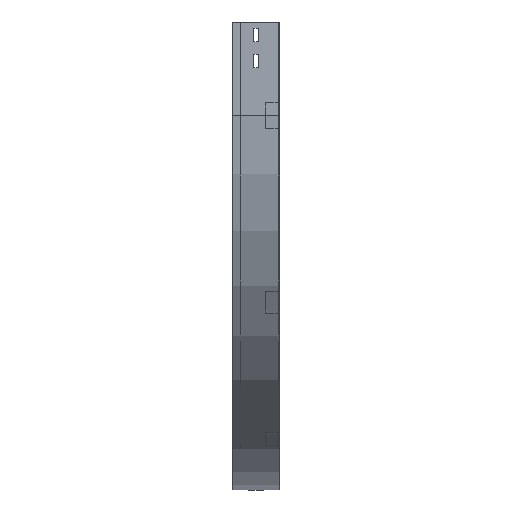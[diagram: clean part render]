
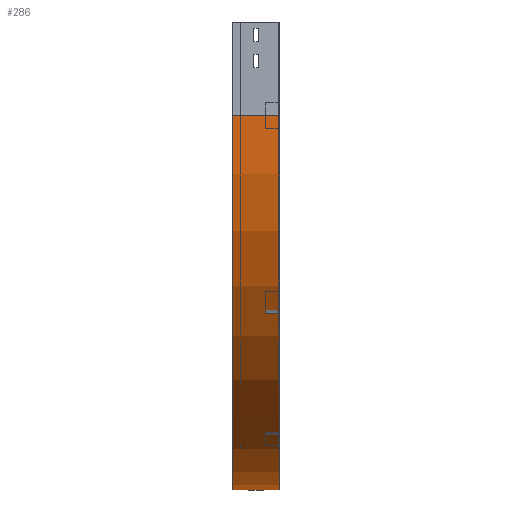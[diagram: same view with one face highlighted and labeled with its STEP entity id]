
A CAD part, left-side view. The second image highlights one B-rep face of the part: STEP entity #286.
In plain terms, the highlighted cylindrical face has radius 600 mm (diameter 1200 mm), a partial arc.
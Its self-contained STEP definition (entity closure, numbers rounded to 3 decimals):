
#5 = DIRECTION ( 'NONE',  ( 0., 0., -1. ) ) ;
#15 = EDGE_LOOP ( 'NONE', ( #395, #1558, #2287, #3236 ) ) ;
#271 = FACE_OUTER_BOUND ( 'NONE', #15, .T. ) ;
#286 = ADVANCED_FACE ( 'NONE', ( #271 ), #2964, .T. ) ;
#369 = EDGE_CURVE ( 'NONE', #3675, #1386, #1233, .T. ) ;
#395 = ORIENTED_EDGE ( 'NONE', *, *, #535, .F. ) ;
#535 = EDGE_CURVE ( 'NONE', #2834, #1879, #1725, .T. ) ;
#562 = CARTESIAN_POINT ( 'NONE',  ( 0., 75., -150. ) ) ;
#894 = LINE ( 'NONE', #3215, #2066 ) ;
#1206 = VECTOR ( 'NONE', #2257, 1000. ) ;
#1233 = CIRCLE ( 'NONE', #1360, 600. ) ;
#1240 = CARTESIAN_POINT ( 'NONE',  ( 600., 75., -150. ) ) ;
#1275 = CARTESIAN_POINT ( 'NONE',  ( 600., 0., -150. ) ) ;
#1360 = AXIS2_PLACEMENT_3D ( 'NONE', #1240, #3597, #3023 ) ;
#1386 = VERTEX_POINT ( 'NONE', #2479 ) ;
#1558 = ORIENTED_EDGE ( 'NONE', *, *, #2469, .F. ) ;
#1725 = CIRCLE ( 'NONE', #2099, 600. ) ;
#1800 = DIRECTION ( 'NONE',  ( 0., -1., 0. ) ) ;
#1879 = VERTEX_POINT ( 'NONE', #3513 ) ;
#1947 = LINE ( 'NONE', #2271, #1206 ) ;
#2066 = VECTOR ( 'NONE', #3276, 1000. ) ;
#2099 = AXIS2_PLACEMENT_3D ( 'NONE', #1275, #3418, #2473 ) ;
#2257 = DIRECTION ( 'NONE',  ( 0., -1., 0. ) ) ;
#2271 = CARTESIAN_POINT ( 'NONE',  ( 600., 0., -750. ) ) ;
#2287 = ORIENTED_EDGE ( 'NONE', *, *, #369, .T. ) ;
#2307 = EDGE_CURVE ( 'NONE', #1386, #1879, #1947, .T. ) ;
#2469 = EDGE_CURVE ( 'NONE', #3675, #2834, #894, .T. ) ;
#2473 = DIRECTION ( 'NONE',  ( -1., 0., 0. ) ) ;
#2479 = CARTESIAN_POINT ( 'NONE',  ( 600., 75., -750. ) ) ;
#2834 = VERTEX_POINT ( 'NONE', #3742 ) ;
#2964 = CYLINDRICAL_SURFACE ( 'NONE', #3385, 600. ) ;
#3023 = DIRECTION ( 'NONE',  ( -1., 0., 0. ) ) ;
#3215 = CARTESIAN_POINT ( 'NONE',  ( 0., 0., -150. ) ) ;
#3236 = ORIENTED_EDGE ( 'NONE', *, *, #2307, .T. ) ;
#3276 = DIRECTION ( 'NONE',  ( 0., -1., 0. ) ) ;
#3385 = AXIS2_PLACEMENT_3D ( 'NONE', #3577, #1800, #5 ) ;
#3418 = DIRECTION ( 'NONE',  ( 0., -1., 0. ) ) ;
#3513 = CARTESIAN_POINT ( 'NONE',  ( 600., 0., -750. ) ) ;
#3577 = CARTESIAN_POINT ( 'NONE',  ( 600., 0., -150. ) ) ;
#3597 = DIRECTION ( 'NONE',  ( 0., -1., 0. ) ) ;
#3675 = VERTEX_POINT ( 'NONE', #562 ) ;
#3742 = CARTESIAN_POINT ( 'NONE',  ( 0., 0., -150. ) ) ;
